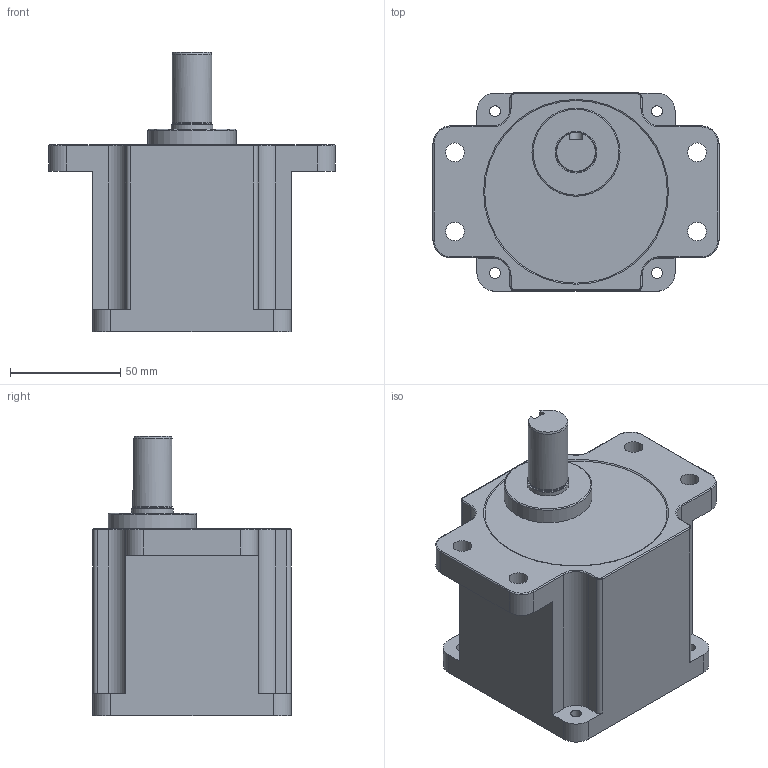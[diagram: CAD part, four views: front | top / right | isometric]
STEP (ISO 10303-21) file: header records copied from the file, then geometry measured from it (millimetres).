
FILE_DESCRIPTION((''),'2;1');
FILE_NAME('C:\Users\AHN\Desktop\K9P□BUF-K6.stp','2021-02-08T10:13:01',('AHN'),(''),'Autodesk Inventor 2009','Autodesk Inventor 2009','');
FILE_SCHEMA(('AUTOMOTIVE_DESIGN { 1 0 10303 214 1 1 1 1 }'));
Length unit declared in the file: millimetre
Products named in the file (1): K9P□BUF
Bounding box: 130 x 90 x 127 mm (x, y, z)
Volume: 664085.3 mm3; surface area: 55068.8 mm2
Topology: 1 solids, 1 shells, 87 faces, 216 edges, 135 vertices
Faces by surface type: cylinder 41, plane 29, torus 16, cone 1
Full cylindrical faces by diameter (mm): 5 x4, 8.5 x4, 17.7 x1, 18 x1, 19 x1, 40 x1
Entity records: 2597 total; most frequent: DIRECTION 469, CARTESIAN_POINT 467, ORIENTED_EDGE 398, EDGE_CURVE 199, AXIS2_PLACEMENT_3D 186, VERTEX_POINT 134, EDGE_LOOP 123, CIRCLE 98
